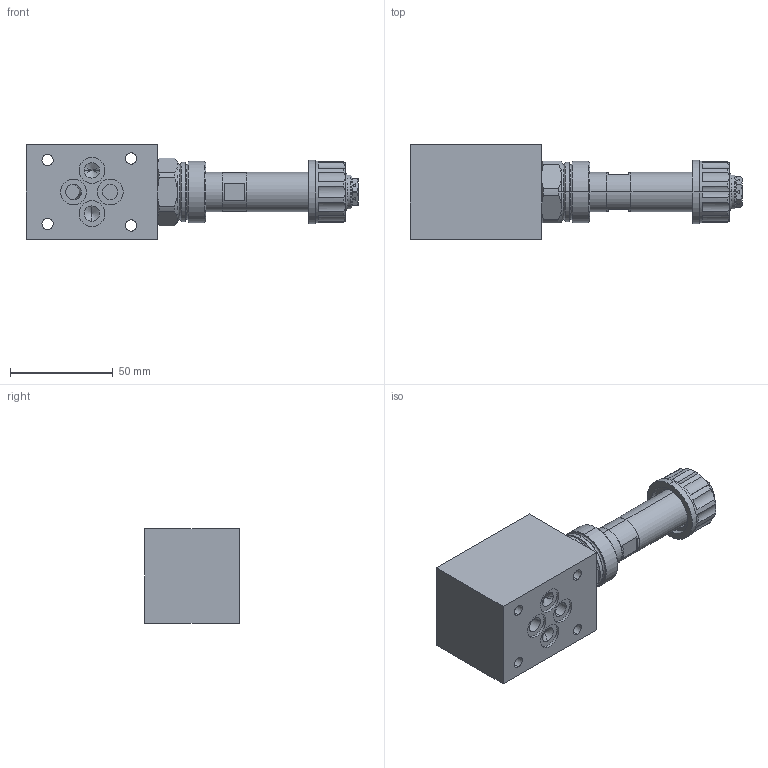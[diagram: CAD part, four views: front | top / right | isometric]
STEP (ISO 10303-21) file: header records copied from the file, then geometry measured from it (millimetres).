
FILE_DESCRIPTION (( 'STEP AP214' ), '1' );
FILE_NAME ('DNPFA06-A_B.STEP', '2017-04-19T12:05:29', ( '' ), ( '' ), 'SwSTEP 2.0', 'SolidWorks 2016', '' );
FILE_SCHEMA (( 'AUTOMOTIVE_DESIGN' ));
Length unit declared in the file: millimetre
Products named in the file (1): DNPFA06-A_B
Bounding box: 161.2 x 46 x 46 mm (x, y, z)
Volume: 171365 mm3; surface area: 30041 mm2
Topology: 1 solids, 2 shells, 390 faces, 958 edges, 619 vertices
Faces by surface type: plane 199, cylinder 94, cone 62, bspline 25, torus 10
Entity records: 17389 total; most frequent: CARTESIAN_POINT 4075, ORIENTED_EDGE 1900, DIRECTION 1839, EDGE_CURVE 950, AXIS2_PLACEMENT_3D 645, VERTEX_POINT 619, LINE 549, VECTOR 549
